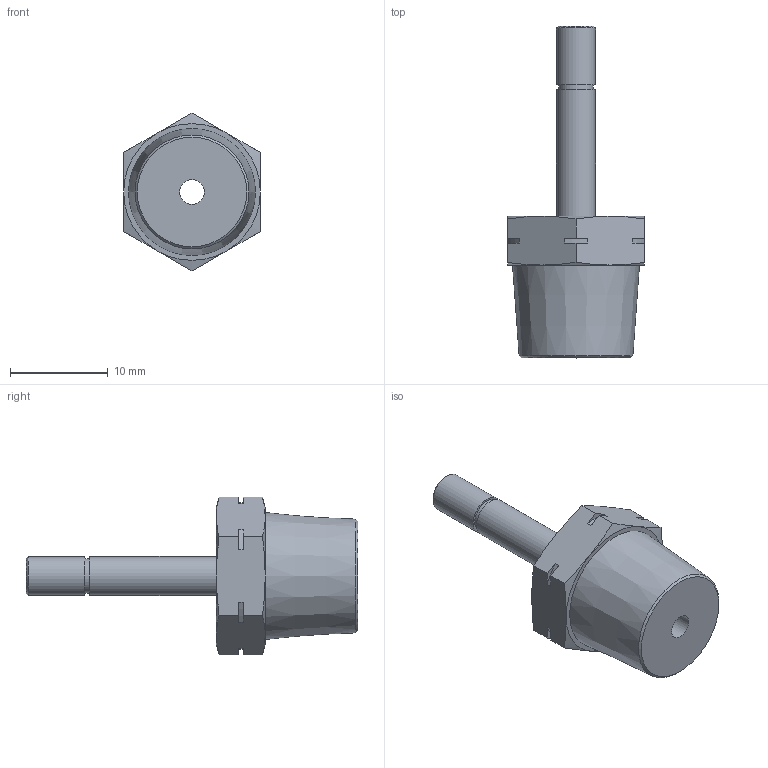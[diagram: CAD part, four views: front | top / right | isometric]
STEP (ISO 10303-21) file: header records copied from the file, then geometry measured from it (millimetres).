
FILE_DESCRIPTION(/* description */ (''),/* implementation_level */ '2;1');
FILE_NAME(/* name */ 'LXH15 0004 N2.stp',/* time_stamp */ '2026-04-28T16:09:57+02:00',/* author */ ('freju'),/* organization */ (''),/* preprocessor_version */ 'ST-DEVELOPER v20.1',/* originating_system */ 'Autodesk Inventor 2026',/* authorisation */ '');
FILE_SCHEMA (('AUTOMOTIVE_DESIGN { 1 0 10303 214 3 1 1 }'));
Length unit declared in the file: millimetre
Products named in the file (1): LXH15 0004 B2
Bounding box: 14 x 34 x 16.17 mm (x, y, z)
Volume: 2052.2 mm3; surface area: 1424.3 mm2
Topology: 1 solids, 1 shells, 49 faces, 117 edges, 74 vertices
Faces by surface type: plane 24, cone 15, cylinder 10
Full cylindrical faces by diameter (mm): 2.5 x1, 3.5 x1, 4 x2
Entity records: 1436 total; most frequent: CARTESIAN_POINT 289, ORIENTED_EDGE 234, DIRECTION 231, EDGE_CURVE 117, AXIS2_PLACEMENT_3D 88, VERTEX_POINT 74, EDGE_LOOP 55, LINE 55
